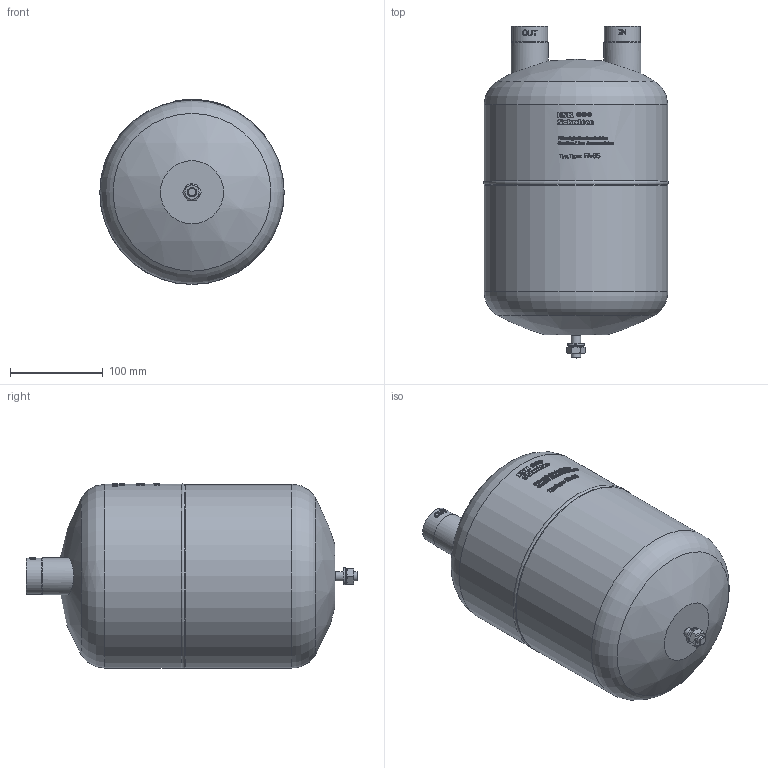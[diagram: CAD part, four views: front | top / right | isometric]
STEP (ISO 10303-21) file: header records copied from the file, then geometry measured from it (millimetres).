
FILE_DESCRIPTION(/* description */ (''),/* implementation_level */ '2;1');
FILE_NAME(/* name */ 'P:\FA\FA-35\FA-35.stp',/* time_stamp */ '2017-10-05T07:52:49+02:00',/* author */ ('neufeld'),/* organization */ (''),/* preprocessor_version */ 'ST-DEVELOPER v16.1',/* originating_system */ 'Autodesk Inventor 2016',/* authorisation */ '');
FILE_SCHEMA (('AUTOMOTIVE_DESIGN { 1 0 10303 214 3 1 1 }'));
Length unit declared in the file: millimetre
Products named in the file (2): FA-35; FA-35_1
Assembly tree (1 placements, depth 2):
  FA-35_1
    FA-35
Bounding box: 198.98 x 358 x 199.49 mm (x, y, z)
Volume: 8279210.1 mm3; surface area: 230152.2 mm2
Topology: 2 solids, 2 shells, 1250 faces, 3396 edges, 2261 vertices
Faces by surface type: plane 683, bspline 440, cylinder 115, cone 6, torus 4, sphere 2
Full cylindrical faces by diameter (mm): 10 x2, 35.2 x2, 39 x2, 40 x2, 198 x2
Entity records: 48466 total; most frequent: CARTESIAN_POINT 19166, ORIENTED_EDGE 6746, DIRECTION 4965, EDGE_CURVE 3373, VERTEX_POINT 2258, AXIS2_PLACEMENT_3D 1673, LINE 1619, VECTOR 1619
